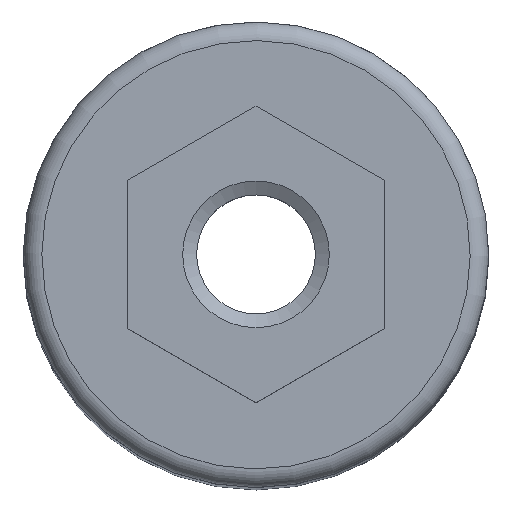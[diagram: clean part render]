
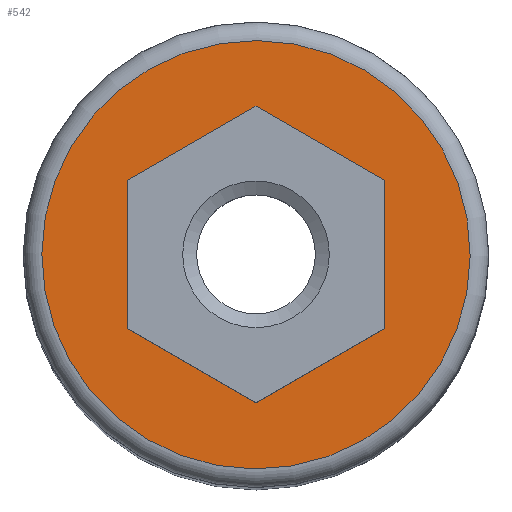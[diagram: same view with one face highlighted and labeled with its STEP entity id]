
A CAD part, top view. The second image highlights one B-rep face of the part: STEP entity #542.
In plain terms, the highlighted planar face has unit normal (0, 0, 1).
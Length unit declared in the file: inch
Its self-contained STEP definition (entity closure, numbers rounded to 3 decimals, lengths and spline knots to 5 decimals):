
#36=FACE_BOUND('',#106,.T.);
#46=PLANE('',#670);
#69=FACE_OUTER_BOUND('',#105,.T.);
#105=EDGE_LOOP('',(#379));
#106=EDGE_LOOP('',(#380));
#219=CIRCLE('',#665,0.23);
#223=CIRCLE('',#671,0.11);
#249=VERTEX_POINT('',#915);
#252=VERTEX_POINT('',#925);
#296=EDGE_CURVE('',#249,#249,#219,.T.);
#301=EDGE_CURVE('',#252,#252,#223,.T.);
#379=ORIENTED_EDGE('',*,*,#296,.F.);
#380=ORIENTED_EDGE('',*,*,#301,.T.);
#542=ADVANCED_FACE('',(#69,#36),#46,.T.);
#665=AXIS2_PLACEMENT_3D('',#916,#747,#748);
#670=AXIS2_PLACEMENT_3D('',#924,#758,#759);
#671=AXIS2_PLACEMENT_3D('',#926,#760,#761);
#747=DIRECTION('center_axis',(0.,0.,
-1.));
#748=DIRECTION('ref_axis',(-0.506,-0.863,0.));
#758=DIRECTION('center_axis',(0.,0.,
1.));
#759=DIRECTION('ref_axis',(0.506,0.863,0.));
#760=DIRECTION('center_axis',(0.,0.,
-1.));
#761=DIRECTION('ref_axis',(0.506,0.863,0.));
#915=CARTESIAN_POINT('',(-0.11632,-0.19842,0.03));
#916=CARTESIAN_POINT('Origin',(0.,0.,
0.03));
#924=CARTESIAN_POINT('Origin',(0.,0.,
0.03));
#925=CARTESIAN_POINT('',(-0.05563,-0.0949,0.03));
#926=CARTESIAN_POINT('Origin',(0.,0.,
0.03));
